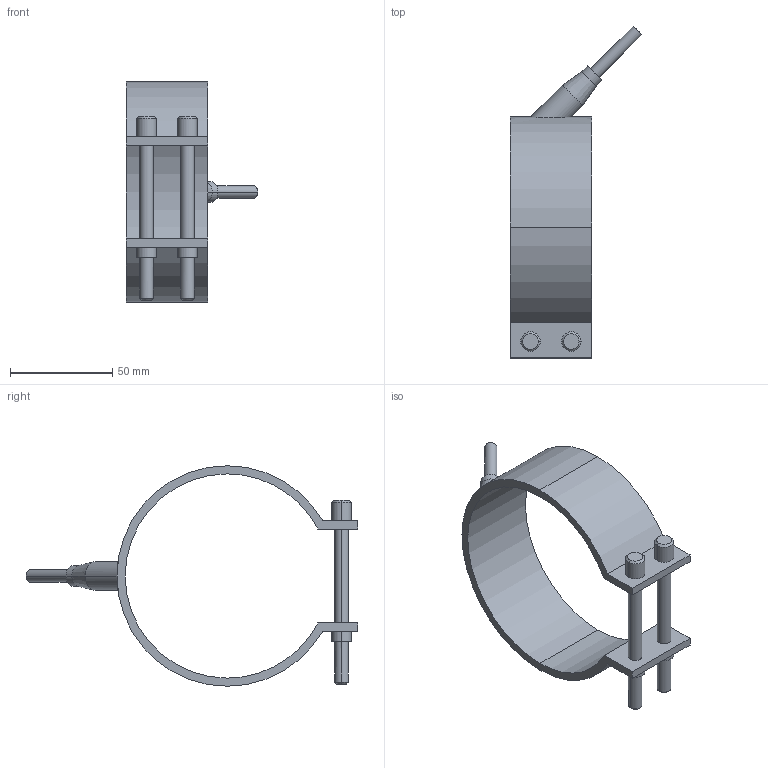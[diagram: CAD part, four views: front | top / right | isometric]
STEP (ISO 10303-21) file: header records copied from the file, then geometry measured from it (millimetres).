
FILE_DESCRIPTION(('CATIA V5 STEP Exchange'),'2;1');
FILE_NAME('C:\Users\Utente\Desktop\IO LAVORO\3D X SITO CF\X SITO\PLASTICA\RF1\29100040.stp','2021-03-29T13:19:24+00:00',('none'),('none'),'CATIA Version 5 Release 20 GA (IN-10)','CATIA V5 STEP AP203','none');
FILE_SCHEMA(('CONFIG_CONTROL_DESIGN'));
Length unit declared in the file: millimetre
Products named in the file (1): 29100040
Bounding box: 64.55 x 162.55 x 108 mm (x, y, z)
Volume: 61372.2 mm3; surface area: 32875.3 mm2
Topology: 1 solids, 1 shells, 54 faces, 121 edges, 77 vertices
Faces by surface type: cylinder 28, plane 16, cone 10
Entity records: 1686 total; most frequent: CARTESIAN_POINT 458, ORIENTED_EDGE 242, DIRECTION 216, EDGE_CURVE 121, AXIS2_PLACEMENT_3D 109, VERTEX_POINT 77, EDGE_LOOP 66, VECTOR 56
